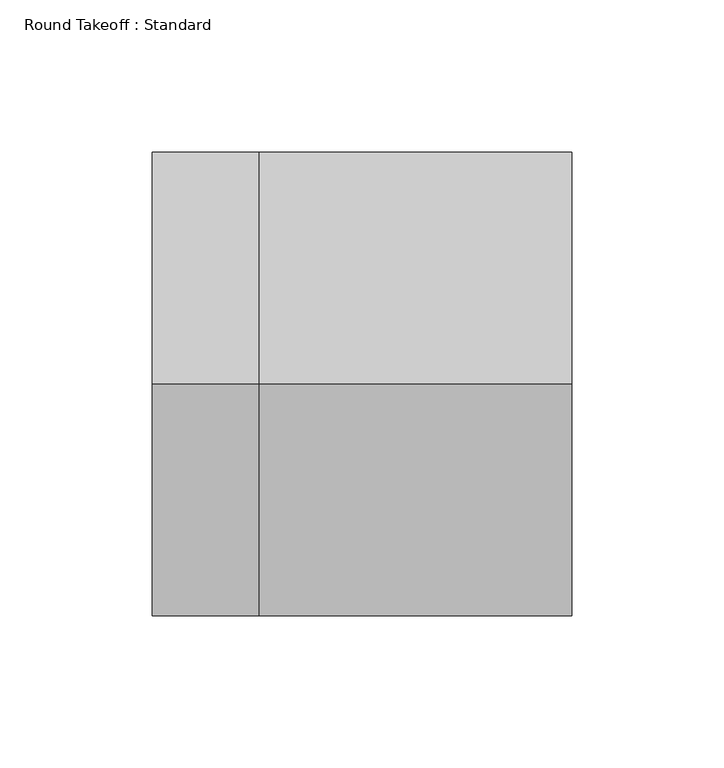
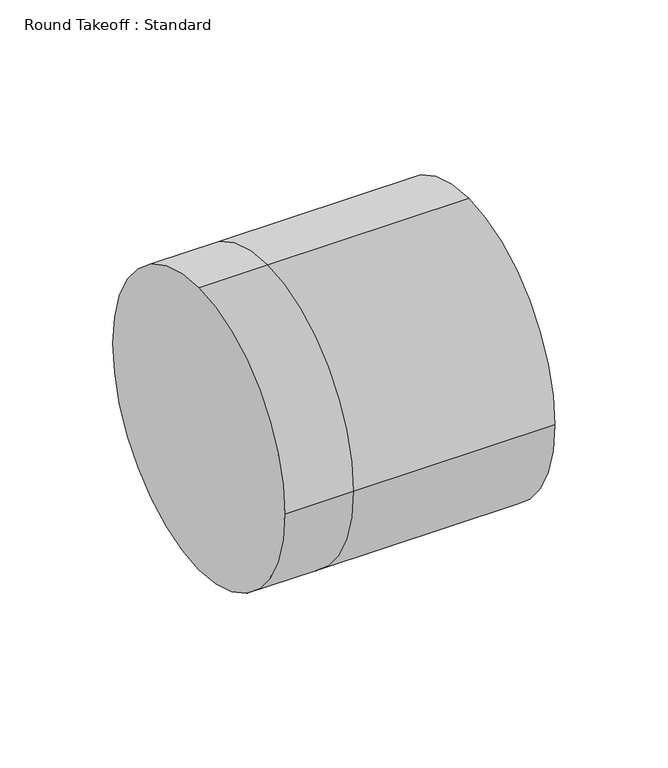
"""IFC4 building model written with IfcOpenShell, lengths in millimetres: duct fitting geometry, Round Takeoff : Standard."""

from ifc_helpers import new_model, si_unit, frame, origin, place, context, project, spatial, circle_curve, source, transform, mapped, element, save
from ifc_brep_helpers import plane_surface, cylinder_surface, advanced_brep


def round_takeoff_standard_f417390f(model_context):
    return source(origin(), model_context, "Body", "AdvancedBrep", [
        advanced_brep(
        [(102.7349027, 0.0, 76.2), (102.7349027, -76.2, 0.0), (102.7349027, 0.0, -76.2), (102.7349027, 76.2, 0.0), (0.0, 76.2, 0.0), (0.0, 0.0, 76.2), (0.0, 0.0, -76.2), (0.0, -76.2, 0.0), (-35.2050381, 0.0, 76.2), (-35.2050381, 76.2, 0.0), (-35.2050381, 0.0, -76.2), (-35.2050381, -76.2, 0.0)],
        [
            (0, 1, circle_curve(frame((102.7349027, 0.0, 0.0), z_axis=(1.0, 0.0, 0.0), x_axis=(0.0, 1.0, 0.0)), 76.2)),
            (1, 2, circle_curve(frame((102.7349027, 0.0, 0.0), z_axis=(1.0, 0.0, 0.0), x_axis=(0.0, 1.0, 0.0)), 76.2)),
            (2, 3, circle_curve(frame((102.7349027, 0.0, 0.0), z_axis=(1.0, 0.0, 0.0), x_axis=(0.0, 1.0, 0.0)), 76.2)),
            (3, 0, circle_curve(frame((102.7349027, 0.0, 0.0), z_axis=(1.0, 0.0, 0.0), x_axis=(0.0, 1.0, 0.0)), 76.2)),
            (3, 4),
            (4, 5, circle_curve(frame((0.0, 0.0, 0.0), z_axis=(1.0, 0.0, 0.0), x_axis=(0.0, 1.0, 0.0)), 76.2)),
            (5, 0),
            (2, 6),
            (6, 4, circle_curve(frame((0.0, 0.0, 0.0), z_axis=(1.0, 0.0, 0.0), x_axis=(0.0, 1.0, 0.0)), 76.2)),
            (1, 7),
            (7, 6, circle_curve(frame((0.0, 0.0, 0.0), z_axis=(1.0, 0.0, 0.0), x_axis=(0.0, 1.0, 0.0)), 76.2)),
            (5, 7, circle_curve(frame((0.0, 0.0, 0.0), z_axis=(1.0, 0.0, 0.0), x_axis=(0.0, 1.0, 0.0)), 76.2)),
            (8, 9, circle_curve(frame((-35.2050381, 0.0, 0.0), z_axis=(-1.0, 0.0, 0.0), x_axis=(0.0, 1.0, 0.0)), 76.2)),
            (9, 10, circle_curve(frame((-35.2050381, 0.0, 0.0), z_axis=(-1.0, 0.0, 0.0), x_axis=(0.0, 1.0, 0.0)), 76.2)),
            (10, 11, circle_curve(frame((-35.2050381, 0.0, 0.0), z_axis=(-1.0, 0.0, 0.0), x_axis=(0.0, 1.0, 0.0)), 76.2)),
            (11, 8, circle_curve(frame((-35.2050381, 0.0, 0.0), z_axis=(-1.0, 0.0, 0.0), x_axis=(0.0, 1.0, 0.0)), 76.2)),
            (8, 5),
            (4, 9),
            (6, 10),
            (7, 11),
        ],
        [
            plane_surface(frame((102.7349027, 0.0, 0.0), z_axis=(1.0, 0.0, 0.0), x_axis=(0.0, 0.0, 1.0))),
            cylinder_surface(frame((0.0, 0.0, 0.0), z_axis=(-1.0, 0.0, 0.0), x_axis=(0.0, 1.0, 0.0)), 76.2),
            plane_surface(frame((-35.2050381, 0.0, 0.0), z_axis=(-1.0, 0.0, 0.0), x_axis=(0.0, 0.0, 1.0))),
            cylinder_surface(frame((-35.2050381, 0.0, 0.0), z_axis=(-1.0, 0.0, 0.0), x_axis=(0.0, 1.0, 0.0)), 76.2),
        ],
        [
            (0, [[1, 2, 3, 4]]),
            (1, [[-4, 5, 6, 7]]),
            (1, [[-3, 8, 9, -5]]),
            (1, [[-2, 10, 11, -8]]),
            (1, [[-1, -7, 12, -10]]),
            (2, [[13, 14, 15, 16]]),
            (3, [[-13, 17, -6, 18]]),
            (3, [[-14, -18, -9, 19]]),
            (3, [[-15, -19, -11, 20]]),
            (3, [[-16, -20, -12, -17]]),
        ],
    ),
    ])


if __name__ == "__main__":
    model = new_model("IFC4")
    model_context = context("Model", 3, world=origin())
    ifc_project = project(units=[si_unit("LENGTHUNIT", "METRE", prefix="MILLI")], contexts=[model_context])
    site = spatial("IfcSite", under=ifc_project)
    building = spatial("IfcBuilding", under=site)
    placement = place(None, origin())
    round_takeoff_standard_shape = round_takeoff_standard_f417390f(model_context)
    element("IfcDuctFitting", 1, ObjectType="Round Takeoff : Standard", at=placement, inside=building, context=model_context, shape_type="MappedRepresentation", body=[
        mapped(round_takeoff_standard_shape, transform((0.0, 0.0, 0.0), x_axis=(1.0, 0.0, 0.0), y_axis=(0.0, 1.0, 0.0), z_axis=(0.0, 0.0, 1.0))),
    ])
    save(model, "model.ifc")
